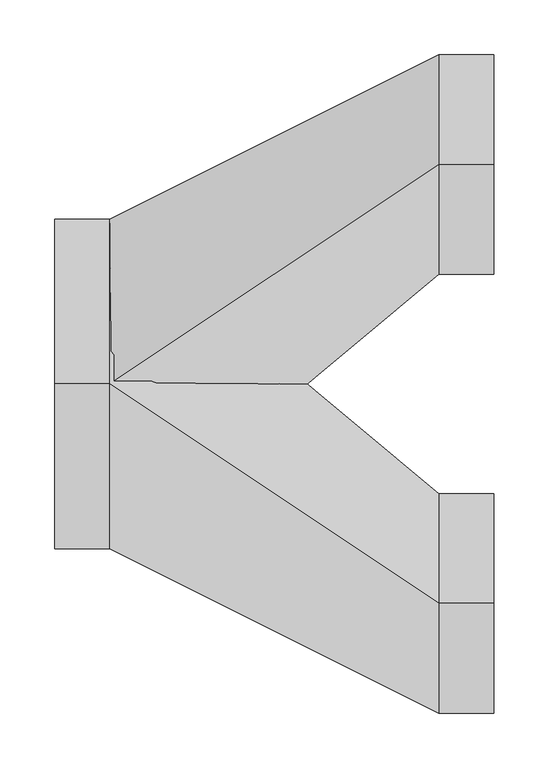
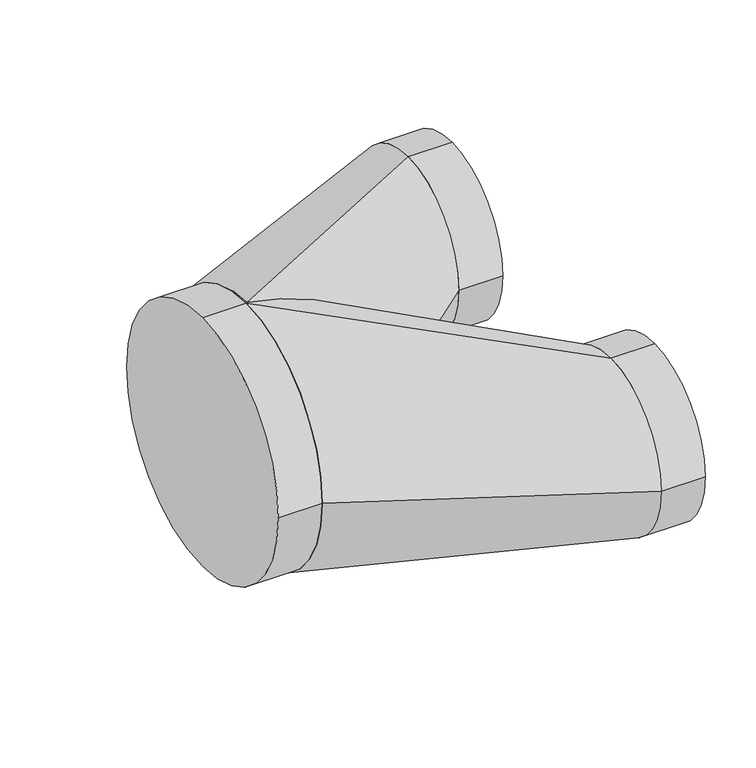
"""IFC4 building model written with IfcOpenShell, lengths in millimetres: duct fitting geometry, Prihoda Circular Pants 2 Outlets : Pants Circle 2 Outlets."""

from ifc_helpers import new_model, si_unit, point, frame, frame_2d, origin, origin_2d, place, context, project, spatial, circle_curve, trimmed, segment, composite_curve, outline, extrude, source, transform, mapped, element, save
from ifc_brep_helpers import plane_surface, spline_surface, advanced_brep


def duct_fitting_15a843aa(model_context):
    return source(origin(), model_context, "Body", "SolidModel", [
        advanced_brep(
        [(300.0, -200.0, 100.0), (300.0, -300.0, 0.0), (300.0, -200.0, -100.0), (300.0, -100.0, 0.0), (0.0, 0.0, 150.0), (0.0, 150.0, 0.0), (0.0, 0.0, -150.0), (0.0, -150.0, 0.0)],
        [
            (0, 1, circle_curve(frame((300.0, -200.0, 0.0), z_axis=(1.0, 0.0, 0.0), x_axis=(0.0, 1.0, 0.0)), 100.0)),
            (1, 2, circle_curve(frame((300.0, -200.0, 0.0), z_axis=(1.0, 0.0, 0.0), x_axis=(0.0, 1.0, 0.0)), 100.0)),
            (2, 3, circle_curve(frame((300.0, -200.0, 0.0), z_axis=(1.0, 0.0, 0.0), x_axis=(0.0, 1.0, 0.0)), 100.0)),
            (3, 0, circle_curve(frame((300.0, -200.0, 0.0), z_axis=(1.0, 0.0, 0.0), x_axis=(0.0, 1.0, 0.0)), 100.0)),
            (4, 5, circle_curve(frame((0.0, 0.0, 0.0), z_axis=(-1.0, 0.0, 0.0), x_axis=(0.0, 1.0, 0.0)), 150.0)),
            (5, 6, circle_curve(frame((0.0, 0.0, 0.0), z_axis=(-1.0, 0.0, 0.0), x_axis=(0.0, 1.0, 0.0)), 150.0)),
            (6, 7, circle_curve(frame((0.0, 0.0, 0.0), z_axis=(-1.0, 0.0, 0.0), x_axis=(0.0, 1.0, 0.0)), 150.0)),
            (7, 4, circle_curve(frame((0.0, 0.0, 0.0), z_axis=(-1.0, 0.0, 0.0), x_axis=(0.0, 1.0, 0.0)), 150.0)),
            (7, 1),
            (0, 4),
            (6, 2),
            (5, 3),
        ],
        [
            plane_surface(frame((300.0, -200.0, 0.0), z_axis=(1.0, 0.0, 0.0), x_axis=(0.0, -1.0, 0.0))),
            plane_surface(frame((0.0, 0.0, 0.0), z_axis=(-1.0, 0.0, 0.0), x_axis=(0.0, -1.0, 0.0))),
            spline_surface(2, 1, [[(0.0, 0.0, 150.0), (300.0, -200.0, 100.0)], [(0.0, -150.0, 150.0), (300.0, -300.0, 100.0)], [(0.0, -150.0, 0.0), (300.0, -300.0, 0.0)]], [3, 3], [2, 2], [0.0, 1.0], [0.0, 1.0], weights=[[1.0, 1.0], [0.7071067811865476, 0.7071067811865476], [1.0, 1.0]]),
            spline_surface(2, 1, [[(0.0, -150.0, 0.0), (300.0, -300.0, 0.0)], [(0.0, -150.0, -150.0), (300.0, -300.0, -100.0)], [(0.0, 0.0, -150.0), (300.0, -200.0, -100.0)]], [3, 3], [2, 2], [0.0, 1.0], [0.0, 1.0], weights=[[1.0, 1.0], [0.7071067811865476, 0.7071067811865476], [1.0, 1.0]]),
            spline_surface(2, 1, [[(0.0, 0.0, -150.0), (300.0, -200.0, -100.0)], [(0.0, 150.0, -150.0), (300.0, -100.0, -100.0)], [(0.0, 150.0, 0.0), (300.0, -100.0, 0.0)]], [3, 3], [2, 2], [0.0, 1.0], [0.0, 1.0], weights=[[1.0, 1.0], [0.7071067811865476, 0.7071067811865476], [1.0, 1.0]]),
            spline_surface(2, 1, [[(0.0, 150.0, 0.0), (300.0, -100.0, 0.0)], [(0.0, 150.0, 150.0), (300.0, -100.0, 100.0)], [(0.0, 0.0, 150.0), (300.0, -200.0, 100.0)]], [3, 3], [2, 2], [0.0, 1.0], [0.0, 1.0], weights=[[1.0, 1.0], [0.7071067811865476, 0.7071067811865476], [1.0, 1.0]]),
        ],
        [
            (0, [[1, 2, 3, 4]]),
            (1, [[5, 6, 7, 8]]),
            (2, [[-8, 9, -1, 10]]),
            (3, [[-7, 11, -2, -9]]),
            (4, [[-6, 12, -3, -11]]),
            (5, [[-5, -10, -4, -12]]),
        ],
    ),
        advanced_brep(
        [(300.0, 200.0, 100.0), (300.0, 100.0, 0.0), (300.0, 200.0, -100.0), (300.0, 300.0, 0.0), (0.0, 0.0, 150.0), (0.0, 150.0, 0.0), (0.0, 0.0, -150.0), (0.0, -150.0, 0.0)],
        [
            (0, 1, circle_curve(frame((300.0, 200.0, 0.0), z_axis=(1.0, 0.0, 0.0), x_axis=(0.0, 1.0, 0.0)), 100.0)),
            (1, 2, circle_curve(frame((300.0, 200.0, 0.0), z_axis=(1.0, 0.0, 0.0), x_axis=(0.0, 1.0, 0.0)), 100.0)),
            (2, 3, circle_curve(frame((300.0, 200.0, 0.0), z_axis=(1.0, 0.0, 0.0), x_axis=(0.0, 1.0, 0.0)), 100.0)),
            (3, 0, circle_curve(frame((300.0, 200.0, 0.0), z_axis=(1.0, 0.0, 0.0), x_axis=(0.0, 1.0, 0.0)), 100.0)),
            (4, 5, circle_curve(frame((0.0, 0.0, 0.0), z_axis=(-1.0, 0.0, 0.0), x_axis=(0.0, 1.0, 0.0)), 150.0)),
            (5, 6, circle_curve(frame((0.0, 0.0, 0.0), z_axis=(-1.0, 0.0, 0.0), x_axis=(0.0, 1.0, 0.0)), 150.0)),
            (6, 7, circle_curve(frame((0.0, 0.0, 0.0), z_axis=(-1.0, 0.0, 0.0), x_axis=(0.0, 1.0, 0.0)), 150.0)),
            (7, 4, circle_curve(frame((0.0, 0.0, 0.0), z_axis=(-1.0, 0.0, 0.0), x_axis=(0.0, 1.0, 0.0)), 150.0)),
            (7, 1),
            (0, 4),
            (6, 2),
            (5, 3),
        ],
        [
            plane_surface(frame((300.0, 200.0, 0.0), z_axis=(1.0, 0.0, 0.0), x_axis=(0.0, -1.0, 0.0))),
            plane_surface(frame((0.0, 0.0, 0.0), z_axis=(-1.0, 0.0, 0.0), x_axis=(0.0, -1.0, 0.0))),
            spline_surface(2, 1, [[(0.0, 0.0, 150.0), (300.0, 200.0, 100.0)], [(0.0, -150.0, 150.0), (300.0, 100.0, 100.0)], [(0.0, -150.0, 0.0), (300.0, 100.0, 0.0)]], [3, 3], [2, 2], [0.0, 1.0], [0.0, 1.0], weights=[[1.0, 1.0], [0.7071067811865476, 0.7071067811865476], [1.0, 1.0]]),
            spline_surface(2, 1, [[(0.0, -150.0, 0.0), (300.0, 100.0, 0.0)], [(0.0, -150.0, -150.0), (300.0, 100.0, -100.0)], [(0.0, 0.0, -150.0), (300.0, 200.0, -100.0)]], [3, 3], [2, 2], [0.0, 1.0], [0.0, 1.0], weights=[[1.0, 1.0], [0.7071067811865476, 0.7071067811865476], [1.0, 1.0]]),
            spline_surface(2, 1, [[(0.0, 0.0, -150.0), (300.0, 200.0, -100.0)], [(0.0, 150.0, -150.0), (300.0, 300.0, -100.0)], [(0.0, 150.0, 0.0), (300.0, 300.0, 0.0)]], [3, 3], [2, 2], [0.0, 1.0], [0.0, 1.0], weights=[[1.0, 1.0], [0.7071067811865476, 0.7071067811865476], [1.0, 1.0]]),
            spline_surface(2, 1, [[(0.0, 150.0, 0.0), (300.0, 300.0, 0.0)], [(0.0, 150.0, 150.0), (300.0, 300.0, 100.0)], [(0.0, 0.0, 150.0), (300.0, 200.0, 100.0)]], [3, 3], [2, 2], [0.0, 1.0], [0.0, 1.0], weights=[[1.0, 1.0], [0.7071067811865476, 0.7071067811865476], [1.0, 1.0]]),
        ],
        [
            (0, [[1, 2, 3, 4]]),
            (1, [[5, 6, 7, 8]]),
            (2, [[-8, 9, -1, 10]]),
            (3, [[-7, 11, -2, -9]]),
            (4, [[-6, 12, -3, -11]]),
            (5, [[-5, -10, -4, -12]]),
        ],
    ),
        extrude(outline(composite_curve([segment(trimmed(circle_curve(frame_2d((-200.0, 0.0)), 100.0), [point((-200.0, 100.0))], [point((-100.0, 0.0))], False, "CARTESIAN"), True, "CONTINUOUS"), segment(trimmed(circle_curve(frame_2d((-200.0, 0.0)), 100.0), [point((-100.0, 0.0))], [point((-200.0, -100.0))], False, "CARTESIAN"), True, "CONTINUOUS"), segment(trimmed(circle_curve(frame_2d((-200.0, 0.0)), 100.0), [point((-200.0, -100.0))], [point((-300.0, 0.0))], False, "CARTESIAN"), True, "CONTINUOUS"), segment(trimmed(circle_curve(frame_2d((-200.0, 0.0)), 100.0), [point((-300.0, 0.0))], [point((-200.0, 100.0))], False, "CARTESIAN"), True, "CONTINUOUS")], self_intersect=False)), frame((300.0, 0.0, 0.0), z_axis=(1.0, 0.0, 0.0), x_axis=(0.0, 1.0, 0.0)), (0.0, 0.0, 1.0), 50.0),
        extrude(outline(composite_curve([segment(trimmed(circle_curve(frame_2d((200.0, 0.0)), 100.0), [point((200.0, 100.0))], [point((300.0, 0.0))], False, "CARTESIAN"), True, "CONTINUOUS"), segment(trimmed(circle_curve(frame_2d((200.0, 0.0)), 100.0), [point((300.0, 0.0))], [point((200.0, -100.0))], False, "CARTESIAN"), True, "CONTINUOUS"), segment(trimmed(circle_curve(frame_2d((200.0, 0.0)), 100.0), [point((200.0, -100.0))], [point((100.0, 0.0))], False, "CARTESIAN"), True, "CONTINUOUS"), segment(trimmed(circle_curve(frame_2d((200.0, 0.0)), 100.0), [point((100.0, 0.0))], [point((200.0, 100.0))], False, "CARTESIAN"), True, "CONTINUOUS")], self_intersect=False)), frame((300.0, 0.0, 0.0), z_axis=(1.0, 0.0, 0.0), x_axis=(0.0, 1.0, 0.0)), (0.0, 0.0, 1.0), 50.0),
        extrude(outline(composite_curve([segment(trimmed(circle_curve(origin_2d(), 150.0), [point((0.0, 150.0))], [point((150.0, 0.0))], False, "CARTESIAN"), True, "CONTINUOUS"), segment(trimmed(circle_curve(origin_2d(), 150.0), [point((150.0, 0.0))], [point((0.0, -150.0))], False, "CARTESIAN"), True, "CONTINUOUS"), segment(trimmed(circle_curve(origin_2d(), 150.0), [point((0.0, -150.0))], [point((-150.0, 0.0))], False, "CARTESIAN"), True, "CONTINUOUS"), segment(trimmed(circle_curve(origin_2d(), 150.0), [point((-150.0, 0.0))], [point((0.0, 150.0))], False, "CARTESIAN"), True, "CONTINUOUS")], self_intersect=False)), frame((-50.0, 0.0, 0.0), z_axis=(1.0, 0.0, 0.0), x_axis=(0.0, 1.0, 0.0)), (0.0, 0.0, 1.0), 50.0),
    ])


if __name__ == "__main__":
    model = new_model("IFC4")
    model_context = context("Model", 3, world=origin())
    ifc_project = project(units=[si_unit("LENGTHUNIT", "METRE", prefix="MILLI")], contexts=[model_context])
    site = spatial("IfcSite", under=ifc_project)
    building = spatial("IfcBuilding", under=site)
    placement = place(None, origin())
    duct_fitting_shape = duct_fitting_15a843aa(model_context)
    element("IfcDuctFitting", 1, ObjectType="Prihoda Circular Pants 2 Outlets : Pants Circle 2 Outlets", at=placement, inside=building, context=model_context, shape_type="MappedRepresentation", body=[
        mapped(duct_fitting_shape, transform((0.0, 0.0, 0.0), x_axis=(1.0, 0.0, 0.0), y_axis=(0.0, 1.0, 0.0), z_axis=(0.0, 0.0, 1.0))),
    ])
    save(model, "model.ifc")
